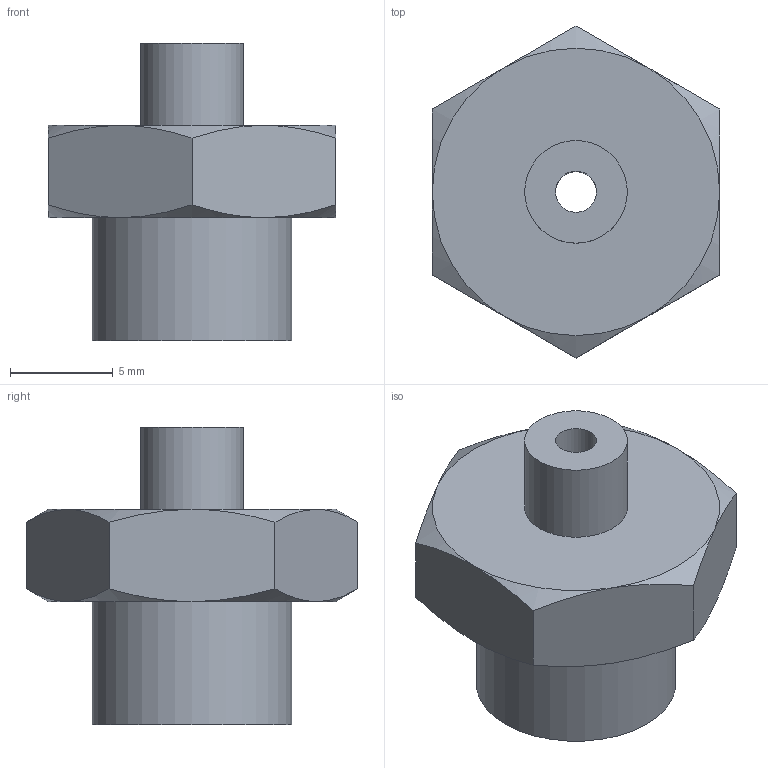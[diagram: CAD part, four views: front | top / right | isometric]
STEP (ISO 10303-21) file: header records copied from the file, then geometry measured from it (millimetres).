
FILE_DESCRIPTION(/* description */ (''),/* implementation_level */ '2;1');
FILE_NAME(/* name */ 'C:\PNX_VAULTFOLDER\Area Tecnica\Disegni\VARIE-3D\Componenti\raccordi\101####\101M518.stp',/* time_stamp */ '2019-09-13T10:22:38+02:00',/* author */ ('maniean1'),/* organization */ ('Pneumax S.p.A.'),/* preprocessor_version */ 'ST-DEVELOPER v17',/* originating_system */ 'Autodesk Inventor 2019',/* authorisation */ '');
FILE_SCHEMA (('AUTOMOTIVE_DESIGN { 1 0 10303 214 3 1 1 }'));
Length unit declared in the file: millimetre
Products named in the file (1): 101M518
Bounding box: 14 x 16.17 x 14.5 mm (x, y, z)
Volume: 1236.8 mm3; surface area: 872.8 mm2
Topology: 1 solids, 1 shells, 25 faces, 56 edges, 35 vertices
Faces by surface type: cone 12, plane 10, cylinder 3
Full cylindrical faces by diameter (mm): 2 x1, 5 x1, 9.728 x1
Entity records: 741 total; most frequent: CARTESIAN_POINT 165, ORIENTED_EDGE 112, DIRECTION 107, EDGE_CURVE 56, AXIS2_PLACEMENT_3D 49, VERTEX_POINT 35, EDGE_LOOP 29, STYLED_ITEM 26
